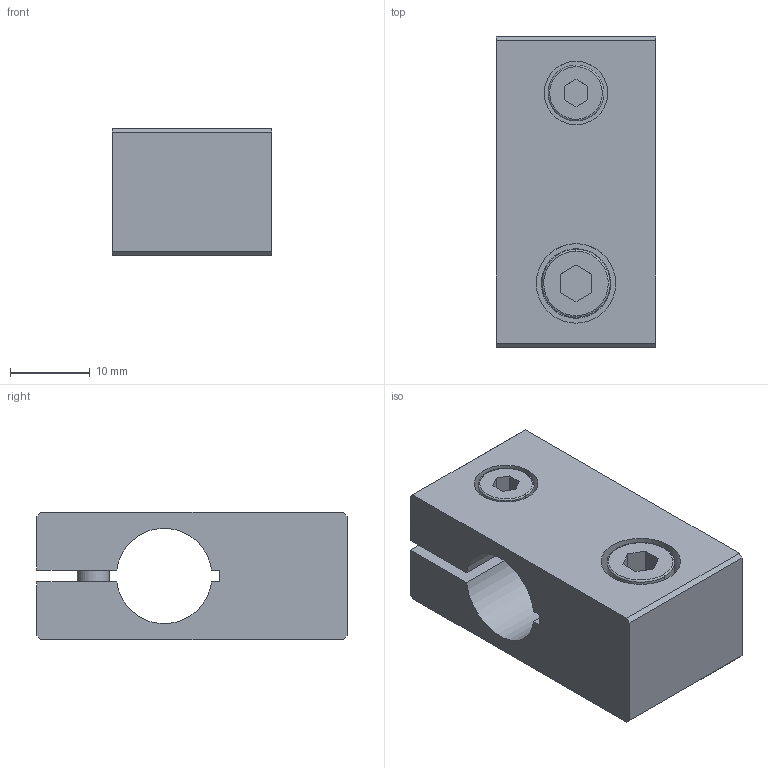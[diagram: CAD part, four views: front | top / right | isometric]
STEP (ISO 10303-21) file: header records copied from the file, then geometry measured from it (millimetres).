
FILE_DESCRIPTION (( 'STEP AP214' ), '1' );
FILE_NAME ('SMBH1-12M5.STEP', '2019-11-07T07:18:21', ( '微软用户' ), ( '微软中国' ), 'SwSTEP 2.0', 'SolidWorks 2016', '' );
FILE_SCHEMA (( 'AUTOMOTIVE_DESIGN' ));
Length unit declared in the file: millimetre
Products named in the file (1): SMBH1-12M5
Bounding box: 20 x 39 x 16 mm (x, y, z)
Volume: 9520.3 mm3; surface area: 5744 mm2
Topology: 5 solids, 5 shells, 458 faces, 1318 edges, 872 vertices
Faces by surface type: plane 422, cylinder 28, cone 4, bspline 4
Entity records: 20443 total; most frequent: CARTESIAN_POINT 2908, DIRECTION 2652, ORIENTED_EDGE 2636, EDGE_CURVE 1318, AXIS2_PLACEMENT_3D 887, VECTOR 878, LINE 878, VERTEX_POINT 872
